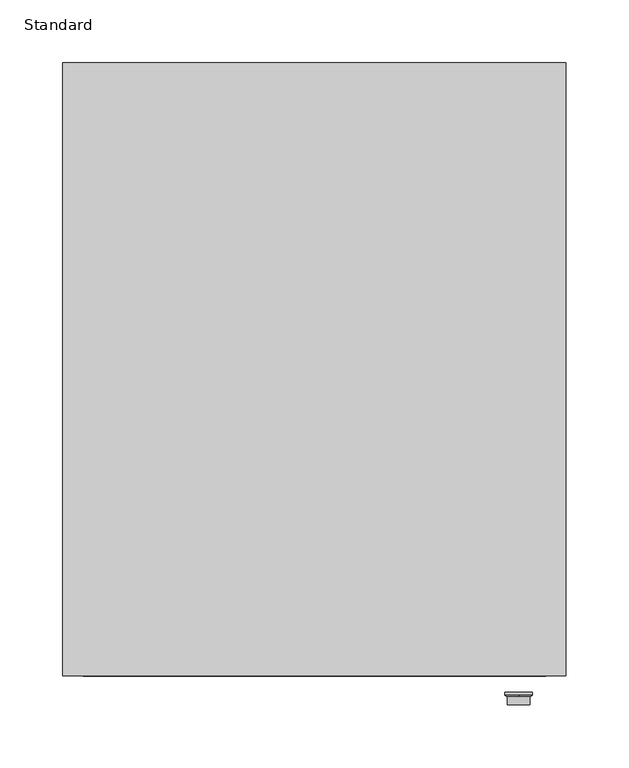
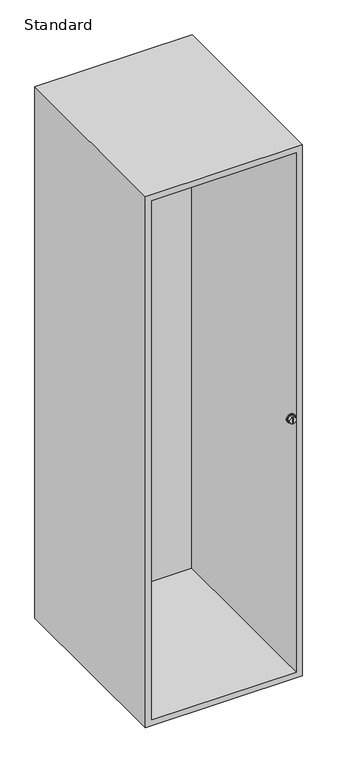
"""IFC4 building model written with IfcOpenShell, lengths in millimetres: furniture geometry, X_Locker-Duracube-Bay : Standard."""

from ifc_helpers import new_model, si_unit, point, frame, frame_2d, origin, place, context, project, spatial, polyline, circle_curve, ellipse_curve, trimmed, segment, composite_curve, outline, extrude, faceted_brep, source, transform, mapped, element, save
from ifc_brep_helpers import plane_surface, revolved_surface, advanced_brep


def standard_520bff41(model_context):
    return source(origin(), model_context, "Body", "SolidModel", [
        extrude(outline(composite_curve([segment(trimmed(circle_curve(frame_2d((715.0, 207.2003264)), 11.0), [point((715.0, 196.2003264))], [point((715.0, 218.2003264))], False, "CARTESIAN"), True, "CONTINUOUS"), segment(trimmed(circle_curve(frame_2d((715.0, 207.2003264)), 11.0), [point((715.0, 218.2003264))], [point((715.0, 196.2003264))], False, "CARTESIAN"), True, "CONTINUOUS")], self_intersect=False)), frame((0.0, -502.0, 0.0), z_axis=(0.0, 1.0, 0.0), x_axis=(0.0, 0.0, 1.0)), (0.0, 0.0, 1.0), 2.0),
        advanced_brep(
        [(207.2003264, -503.0, 706.0), (207.2003264, -503.0, 724.0), (207.2003264, -502.0, 726.0), (207.2003264, -502.0, 704.0), (207.2003264, -502.0, 706.0), (207.2003264, -502.0, 724.0)],
        [
            (0, 1, circle_curve(frame((207.2003264, -503.0, 715.0), z_axis=(0.0, 1.0, 0.0), x_axis=(0.0, 0.0, 1.0)), 9.0)),
            (1, 2, ellipse_curve(frame((207.2003264, -502.0, 724.0), z_axis=(-1.0, 0.0, 0.0), x_axis=(0.0, 0.0, 1.0)), 2.0, 1.0)),
            (2, 3, circle_curve(frame((207.2003264, -502.0, 715.0), z_axis=(0.0, -1.0, 0.0), x_axis=(0.0, 0.0, 1.0)), 11.0)),
            (3, 0, ellipse_curve(frame((207.2003264, -502.0, 706.0), z_axis=(-1.0, 0.0, 0.0), x_axis=(0.0, 0.0, -1.0)), 2.0, 1.0)),
            (1, 0, circle_curve(frame((207.2003264, -503.0, 715.0), z_axis=(0.0, 1.0, 0.0), x_axis=(0.0, 0.0, 1.0)), 9.0)),
            (3, 2, circle_curve(frame((207.2003264, -502.0, 715.0), z_axis=(0.0, -1.0, 0.0), x_axis=(0.0, 0.0, 1.0)), 11.0)),
            (4, 5, circle_curve(frame((207.2003264, -502.0, 715.0), z_axis=(0.0, 1.0, 0.0), x_axis=(0.0, 0.0, 1.0)), 9.0)),
            (5, 1),
            (0, 4),
            (5, 4, circle_curve(frame((207.2003264, -502.0, 715.0), z_axis=(0.0, 1.0, 0.0), x_axis=(0.0, 0.0, 1.0)), 9.0)),
            (2, 5),
            (4, 3),
        ],
        [
            revolved_surface(trimmed(ellipse_curve(frame((207.2003264, -502.0, 724.0), z_axis=(1.0, 0.0, 0.0), x_axis=(0.0, 0.0, 1.0)), 2.0, 1.0), [point((207.2003264, -502.0, 726.0))], [point((207.2003264, -503.0, 724.0))], True, "CARTESIAN"), (207.2003264, -502.0, 715.0), (0.0, -1.0, 0.0)),
            revolved_surface(polyline([(207.2003264, -503.0, 724.0), (207.2003264, -502.0, 724.0)]), (207.2003264, -502.0, 715.0), (0.0, -1.0, 0.0)),
            plane_surface(frame((207.2003264, -502.0, 715.0), z_axis=(0.0, 1.0, 0.0), x_axis=(0.0, 0.0, 1.0))),
        ],
        [
            (0, [[1, 2, 3, 4]]),
            (0, [[5, -4, 6, -2]]),
            (1, [[7, 8, -1, 9]]),
            (1, [[10, -9, -5, -8]]),
            (2, [[-3, 11, -7, 12]]),
            (2, [[-6, -12, -10, -11]]),
        ],
    ),
        extrude(outline(polyline([(208.2003264, -509.0), (206.2003264, -509.0), (206.2003264, -507.0), (208.2003264, -507.0), (208.2003264, -509.0)])), frame((0.0, 0.0, 708.0), z_axis=(0.0, 0.0, 1.0), x_axis=(1.0, 0.0, 0.0)), (0.0, 0.0, 1.0), 14.0),
        extrude(outline(composite_curve([segment(trimmed(circle_curve(frame_2d((715.0, 207.2003264)), 9.0), [point((715.0, 198.2003264))], [point((715.0, 216.2003264))], False, "CARTESIAN"), True, "CONTINUOUS"), segment(trimmed(circle_curve(frame_2d((715.0, 207.2003264)), 9.0), [point((715.0, 216.2003264))], [point((715.0, 198.2003264))], False, "CARTESIAN"), True, "CONTINUOUS")], self_intersect=False), holes=[polyline([(722.0, 208.2003264), (708.0, 208.2003264), (708.0, 206.2003264), (722.0, 206.2003264), (722.0, 208.2003264)])]), frame((0.0, -510.0, 0.0), z_axis=(0.0, 1.0, 0.0), x_axis=(0.0, 0.0, 1.0)), (0.0, 0.0, 1.0), 8.0),
        faceted_brep([(244.7003264, -487.0, 1430.0), (-155.2996736, -487.0, 1430.0), (-155.2996736, -487.0, 0.0), (244.7003264, -487.0, 0.0), (228.7003264, -487.0, 1414.0), (228.7003264, -487.0, 16.0), (-139.2996736, -487.0, 16.0), (-139.2996736, -487.0, 1414.0), (244.7003264, 0.0, 1430.0), (244.7003264, 0.0, 0.0), (-155.2996736, 0.0, 0.0), (-155.2996736, 0.0, 1430.0), (228.7003264, 0.0, 1414.0), (-139.2996736, 0.0, 1414.0), (-139.2996736, 0.0, 16.0), (228.7003264, 0.0, 16.0), (228.7003264, -26.0, 1414.0), (228.7003264, -26.0, 16.0), (228.7003264, -10.0, 16.0), (228.7003264, -10.0, 1414.0), (-139.2996736, -26.0, 16.0), (-139.2996736, -10.0, 16.0), (-139.2996736, -26.0, 1414.0), (-139.2996736, -10.0, 1414.0)], [[[0, 1, 2, 3], [4, 5, 6, 7]], [[8, 9, 10, 11], [12, 13, 14, 15]], [[1, 0, 8, 11]], [[2, 1, 11, 10]], [[3, 2, 10, 9]], [[0, 3, 9, 8]], [[5, 4, 16, 17]], [[12, 15, 18, 19]], [[6, 5, 17, 20]], [[15, 14, 21, 18]], [[7, 6, 20, 22]], [[14, 13, 23, 21]], [[4, 7, 22, 16]], [[13, 12, 19, 23]], [[17, 16, 22, 20]], [[19, 18, 21, 23]]]),
    ])


if __name__ == "__main__":
    model = new_model("IFC4")
    model_context = context("Model", 3, world=origin())
    ifc_project = project(units=[si_unit("LENGTHUNIT", "METRE", prefix="MILLI")], contexts=[model_context])
    site = spatial("IfcSite", under=ifc_project)
    building = spatial("IfcBuilding", under=site)
    placement = place(None, origin())
    standard_shape = standard_520bff41(model_context)
    element("IfcFurniture", 1, ObjectType="X_Locker-Duracube-Bay : Standard", at=placement, inside=building, context=model_context, shape_type="MappedRepresentation", body=[
        mapped(standard_shape, transform((0.0, 0.0, 0.0), x_axis=(1.0, 0.0, 0.0), y_axis=(0.0, 1.0, 0.0), z_axis=(0.0, 0.0, 1.0))),
    ])
    save(model, "model.ifc")
